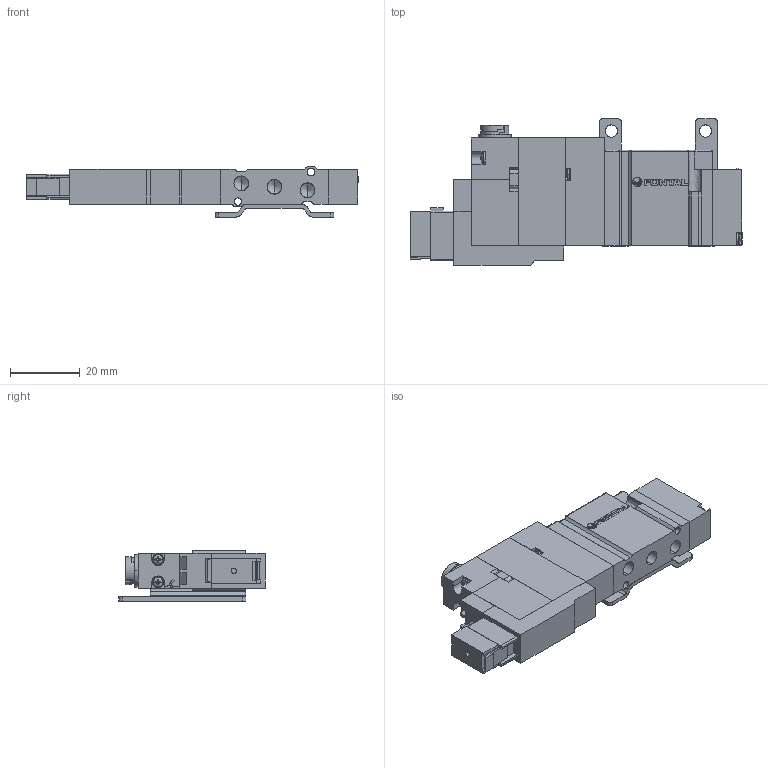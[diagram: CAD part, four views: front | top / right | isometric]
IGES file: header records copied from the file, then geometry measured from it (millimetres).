
Start section: SolidWorks IGES file using analytic representation for surfaces
Global section: file name: D:\Custom\3D繪製\ADEX\A05F\A05FS25#-BS-#-#-E.IGS,1; native system: 5HSolidWorks 2014; preprocessor: SolidWorks 2014; author: Chieh_Lu; date: 150809.154245; units: millimetre
Bounding box: 95.3 x 42 x 14.4 mm (x, y, z)
Surface area: 17145.4 mm2 (no closed solid volume)
Topology: 0 solids, 0 shells, 739 faces, 6268 edges, 6240 vertices
Faces by surface type: bspline 492, revolution 247
